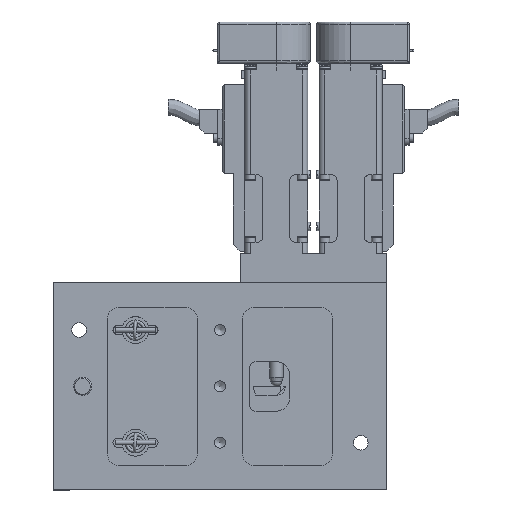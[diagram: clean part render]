
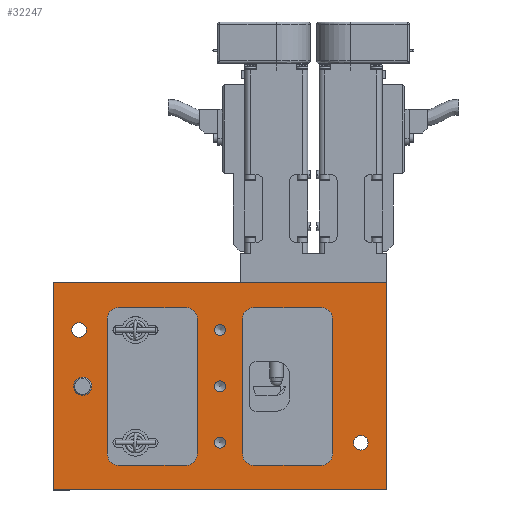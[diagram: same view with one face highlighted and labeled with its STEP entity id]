
A CAD part, front view. The second image highlights one B-rep face of the part: STEP entity #32247.
In plain terms, the highlighted planar face has unit normal (0, -1, 0).
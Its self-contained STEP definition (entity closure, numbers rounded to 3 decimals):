
#1390=LINE($,#48065,#3950);
#1448=LINE($,#48292,#4008);
#1454=LINE($,#48313,#4014);
#1460=LINE($,#48329,#4020);
#1466=LINE($,#48350,#4026);
#1472=LINE($,#48369,#4032);
#1473=LINE($,#48371,#4033);
#1474=LINE($,#48373,#4034);
#1475=LINE($,#48375,#4035);
#1495=LINE($,#48424,#4055);
#1500=LINE($,#48432,#4060);
#1503=LINE($,#48437,#4063);
#3950=VECTOR($,#37915,148.);
#4008=VECTOR($,#38155,60.);
#4014=VECTOR($,#38175,60.);
#4020=VECTOR($,#38189,60.);
#4026=VECTOR($,#38209,60.);
#4032=VECTOR($,#38233,30.);
#4033=VECTOR($,#38236,30.);
#4034=VECTOR($,#38239,30.);
#4035=VECTOR($,#38242,30.);
#4055=VECTOR($,#38290,92.);
#4060=VECTOR($,#38297,92.);
#4063=VECTOR($,#38302,148.);
#6884=PLANE($,#34574);
#8081=FACE_BOUND($,#11072,.T.);
#8082=FACE_BOUND($,#11073,.T.);
#8083=FACE_BOUND($,#11074,.T.);
#8084=FACE_BOUND($,#11075,.T.);
#8085=FACE_BOUND($,#11076,.T.);
#8086=FACE_BOUND($,#11077,.T.);
#8087=FACE_BOUND($,#11078,.T.);
#8088=FACE_BOUND($,#11079,.T.);
#8089=FACE_BOUND($,#11080,.T.);
#11072=EDGE_LOOP($,(#23321));
#11073=EDGE_LOOP($,(#23322));
#11074=EDGE_LOOP($,(#23323));
#11075=EDGE_LOOP($,(#23324));
#11076=EDGE_LOOP($,(#23325));
#11077=EDGE_LOOP($,(#23326));
#11078=EDGE_LOOP($,(#23327,#23328,#23329,#23330,#23331,#23332,#23333,#23334));
#11079=EDGE_LOOP($,(#23335,#23336,#23337,#23338,#23339,#23340,#23341,#23342));
#11080=EDGE_LOOP($,(#23343,#23344,#23345,#23346));
#13513=CIRCLE($,#34440,4.);
#13522=CIRCLE($,#34455,2.459);
#13524=CIRCLE($,#34459,2.459);
#13526=CIRCLE($,#34463,2.459);
#13529=CIRCLE($,#34469,3.25);
#13532=CIRCLE($,#34475,3.25);
#13557=CIRCLE($,#34525,5.);
#13559=CIRCLE($,#34529,5.);
#13563=CIRCLE($,#34536,5.);
#13565=CIRCLE($,#34540,5.);
#13568=CIRCLE($,#34546,5.);
#13569=CIRCLE($,#34548,5.);
#13570=CIRCLE($,#34550,5.);
#13571=CIRCLE($,#34552,5.);
#14764=VERTEX_POINT($,#48062);
#14765=VERTEX_POINT($,#48064);
#14768=VERTEX_POINT($,#48073);
#14782=VERTEX_POINT($,#48111);
#14784=VERTEX_POINT($,#48117);
#14786=VERTEX_POINT($,#48123);
#14789=VERTEX_POINT($,#48132);
#14792=VERTEX_POINT($,#48141);
#14840=VERTEX_POINT($,#48282);
#14841=VERTEX_POINT($,#48284);
#14843=VERTEX_POINT($,#48290);
#14846=VERTEX_POINT($,#48297);
#14847=VERTEX_POINT($,#48299);
#14851=VERTEX_POINT($,#48312);
#14854=VERTEX_POINT($,#48319);
#14855=VERTEX_POINT($,#48321);
#14857=VERTEX_POINT($,#48327);
#14860=VERTEX_POINT($,#48334);
#14861=VERTEX_POINT($,#48336);
#14865=VERTEX_POINT($,#48349);
#14866=VERTEX_POINT($,#48353);
#14867=VERTEX_POINT($,#48357);
#14868=VERTEX_POINT($,#48361);
#14869=VERTEX_POINT($,#48365);
#14884=VERTEX_POINT($,#48423);
#14886=VERTEX_POINT($,#48431);
#18023=EDGE_CURVE($,#14764,#14765,#1390,.T.);
#18027=EDGE_CURVE($,#14768,#14768,#13513,.T.);
#18045=EDGE_CURVE($,#14782,#14782,#13522,.T.);
#18047=EDGE_CURVE($,#14784,#14784,#13524,.T.);
#18049=EDGE_CURVE($,#14786,#14786,#13526,.T.);
#18052=EDGE_CURVE($,#14789,#14789,#13529,.T.);
#18055=EDGE_CURVE($,#14792,#14792,#13532,.T.);
#18124=EDGE_CURVE($,#14840,#14841,#13557,.T.);
#18128=EDGE_CURVE($,#14840,#14843,#1448,.T.);
#18131=EDGE_CURVE($,#14846,#14847,#13559,.T.);
#18138=EDGE_CURVE($,#14851,#14847,#1454,.T.);
#18142=EDGE_CURVE($,#14854,#14855,#13563,.T.);
#18146=EDGE_CURVE($,#14854,#14857,#1460,.T.);
#18149=EDGE_CURVE($,#14860,#14861,#13565,.T.);
#18156=EDGE_CURVE($,#14865,#14861,#1466,.T.);
#18158=EDGE_CURVE($,#14865,#14866,#13568,.T.);
#18161=EDGE_CURVE($,#14867,#14857,#13569,.T.);
#18162=EDGE_CURVE($,#14851,#14868,#13570,.T.);
#18165=EDGE_CURVE($,#14869,#14843,#13571,.T.);
#18166=EDGE_CURVE($,#14846,#14841,#1472,.T.);
#18167=EDGE_CURVE($,#14869,#14868,#1473,.T.);
#18168=EDGE_CURVE($,#14860,#14855,#1474,.T.);
#18169=EDGE_CURVE($,#14867,#14866,#1475,.T.);
#18193=EDGE_CURVE($,#14765,#14884,#1495,.T.);
#18198=EDGE_CURVE($,#14886,#14764,#1500,.T.);
#18201=EDGE_CURVE($,#14884,#14886,#1503,.T.);
#23321=ORIENTED_EDGE($,*,*,#18045,.T.);
#23322=ORIENTED_EDGE($,*,*,#18047,.T.);
#23323=ORIENTED_EDGE($,*,*,#18049,.T.);
#23324=ORIENTED_EDGE($,*,*,#18052,.T.);
#23325=ORIENTED_EDGE($,*,*,#18055,.T.);
#23326=ORIENTED_EDGE($,*,*,#18027,.T.);
#23327=ORIENTED_EDGE($,*,*,#18128,.T.);
#23328=ORIENTED_EDGE($,*,*,#18165,.F.);
#23329=ORIENTED_EDGE($,*,*,#18167,.T.);
#23330=ORIENTED_EDGE($,*,*,#18162,.F.);
#23331=ORIENTED_EDGE($,*,*,#18138,.T.);
#23332=ORIENTED_EDGE($,*,*,#18131,.F.);
#23333=ORIENTED_EDGE($,*,*,#18166,.T.);
#23334=ORIENTED_EDGE($,*,*,#18124,.F.);
#23335=ORIENTED_EDGE($,*,*,#18146,.T.);
#23336=ORIENTED_EDGE($,*,*,#18161,.F.);
#23337=ORIENTED_EDGE($,*,*,#18169,.T.);
#23338=ORIENTED_EDGE($,*,*,#18158,.F.);
#23339=ORIENTED_EDGE($,*,*,#18156,.T.);
#23340=ORIENTED_EDGE($,*,*,#18149,.F.);
#23341=ORIENTED_EDGE($,*,*,#18168,.T.);
#23342=ORIENTED_EDGE($,*,*,#18142,.F.);
#23343=ORIENTED_EDGE($,*,*,#18201,.F.);
#23344=ORIENTED_EDGE($,*,*,#18193,.F.);
#23345=ORIENTED_EDGE($,*,*,#18023,.F.);
#23346=ORIENTED_EDGE($,*,*,#18198,.F.);
#32247=ADVANCED_FACE($,(#8081,#8082,#8083,#8084,#8085,#8086,#8087,#8088,
#8089),#6884,.F.);
#34440=AXIS2_PLACEMENT_3D($,#48074,#37925,#37926);
#34455=AXIS2_PLACEMENT_3D($,#48112,#37964,#37965);
#34459=AXIS2_PLACEMENT_3D($,#48118,#37972,#37973);
#34463=AXIS2_PLACEMENT_3D($,#48124,#37980,#37981);
#34469=AXIS2_PLACEMENT_3D($,#48133,#37992,#37993);
#34475=AXIS2_PLACEMENT_3D($,#48142,#38004,#38005);
#34525=AXIS2_PLACEMENT_3D($,#48285,#38148,#38149);
#34529=AXIS2_PLACEMENT_3D($,#48300,#38161,#38162);
#34536=AXIS2_PLACEMENT_3D($,#48322,#38182,#38183);
#34540=AXIS2_PLACEMENT_3D($,#48337,#38195,#38196);
#34546=AXIS2_PLACEMENT_3D($,#48354,#38213,#38214);
#34548=AXIS2_PLACEMENT_3D($,#48359,#38219,#38220);
#34550=AXIS2_PLACEMENT_3D($,#48362,#38223,#38224);
#34552=AXIS2_PLACEMENT_3D($,#48367,#38229,#38230);
#34574=AXIS2_PLACEMENT_3D($,#48440,#38306,#38307);
#37915=DIRECTION($,(1.,0.,0.));
#37925=DIRECTION('center_axis',(0.,1.,0.));
#37926=DIRECTION('ref_axis',(1.,0.,0.));
#37964=DIRECTION('center_axis',(0.,1.,0.));
#37965=DIRECTION('ref_axis',(1.,0.,0.));
#37972=DIRECTION('center_axis',(0.,1.,0.));
#37973=DIRECTION('ref_axis',(1.,0.,0.));
#37980=DIRECTION('center_axis',(0.,1.,0.));
#37981=DIRECTION('ref_axis',(1.,0.,0.));
#37992=DIRECTION('center_axis',(0.,1.,0.));
#37993=DIRECTION('ref_axis',(1.,0.,0.));
#38004=DIRECTION('center_axis',(0.,1.,0.));
#38005=DIRECTION('ref_axis',(1.,0.,0.));
#38148=DIRECTION('center_axis',(0.,-1.,0.));
#38149=DIRECTION('ref_axis',(-0.707,0.,-0.707));
#38155=DIRECTION($,(0.,0.,1.));
#38161=DIRECTION('center_axis',(0.,-1.,0.));
#38162=DIRECTION('ref_axis',(0.707,0.,-0.707));
#38175=DIRECTION($,(0.,0.,-1.));
#38182=DIRECTION('center_axis',(0.,-1.,0.));
#38183=DIRECTION('ref_axis',(-0.707,0.,-0.707));
#38189=DIRECTION($,(0.,0.,1.));
#38195=DIRECTION('center_axis',(0.,-1.,0.));
#38196=DIRECTION('ref_axis',(0.707,0.,-0.707));
#38209=DIRECTION($,(0.,0.,-1.));
#38213=DIRECTION('center_axis',(0.,-1.,0.));
#38214=DIRECTION('ref_axis',(0.707,0.,0.707));
#38219=DIRECTION('center_axis',(0.,-1.,0.));
#38220=DIRECTION('ref_axis',(-0.707,0.,0.707));
#38223=DIRECTION('center_axis',(0.,-1.,0.));
#38224=DIRECTION('ref_axis',(0.707,0.,0.707));
#38229=DIRECTION('center_axis',(0.,-1.,0.));
#38230=DIRECTION('ref_axis',(-0.707,0.,0.707));
#38233=DIRECTION($,(-1.,0.,0.));
#38236=DIRECTION($,(1.,0.,0.));
#38239=DIRECTION($,(-1.,0.,0.));
#38242=DIRECTION($,(1.,0.,0.));
#38290=DIRECTION($,(0.,0.,-1.));
#38297=DIRECTION($,(0.,0.,1.));
#38302=DIRECTION($,(-1.,0.,0.));
#38306=DIRECTION('center_axis',(0.,1.,0.));
#38307=DIRECTION('ref_axis',(0.,0.,1.));
#48062=CARTESIAN_POINT('',(0.,3.,95.));
#48064=CARTESIAN_POINT('',(148.,3.,95.));
#48065=CARTESIAN_POINT($,(0.,3.,95.));
#48073=CARTESIAN_POINT('',(9.,3.,49.));
#48074=CARTESIAN_POINT('Origin',(13.,3.,49.));
#48111=CARTESIAN_POINT('',(76.459,3.,49.));
#48112=CARTESIAN_POINT('Origin',(74.,3.,49.));
#48117=CARTESIAN_POINT('',(76.459,3.,74.));
#48118=CARTESIAN_POINT('Origin',(74.,3.,74.));
#48123=CARTESIAN_POINT('',(76.459,3.,24.));
#48124=CARTESIAN_POINT('Origin',(74.,3.,24.));
#48132=CARTESIAN_POINT('',(133.25,3.,24.));
#48133=CARTESIAN_POINT('Origin',(136.5,3.,24.));
#48141=CARTESIAN_POINT('',(8.25,3.,74.));
#48142=CARTESIAN_POINT('Origin',(11.5,3.,74.));
#48282=CARTESIAN_POINT('',(24.,3.,19.));
#48284=CARTESIAN_POINT('',(29.,3.,14.));
#48285=CARTESIAN_POINT('Origin',(29.,3.,19.));
#48290=CARTESIAN_POINT('',(24.,3.,79.));
#48292=CARTESIAN_POINT($,(24.,3.,31.5));
#48297=CARTESIAN_POINT('',(59.,3.,14.));
#48299=CARTESIAN_POINT('',(64.,3.,19.));
#48300=CARTESIAN_POINT('Origin',(59.,3.,19.));
#48312=CARTESIAN_POINT('',(64.,3.,79.));
#48313=CARTESIAN_POINT($,(64.,3.,66.5));
#48319=CARTESIAN_POINT('',(84.,3.,19.));
#48321=CARTESIAN_POINT('',(89.,3.,14.));
#48322=CARTESIAN_POINT('Origin',(89.,3.,19.));
#48327=CARTESIAN_POINT('',(84.,3.,79.));
#48329=CARTESIAN_POINT($,(84.,3.,31.5));
#48334=CARTESIAN_POINT('',(119.,3.,14.));
#48336=CARTESIAN_POINT('',(124.,3.,19.));
#48337=CARTESIAN_POINT('Origin',(119.,3.,19.));
#48349=CARTESIAN_POINT('',(124.,3.,79.));
#48350=CARTESIAN_POINT($,(124.,3.,66.5));
#48353=CARTESIAN_POINT('',(119.,3.,84.));
#48354=CARTESIAN_POINT('Origin',(119.,3.,79.));
#48357=CARTESIAN_POINT('',(89.,3.,84.));
#48359=CARTESIAN_POINT('Origin',(89.,3.,79.));
#48361=CARTESIAN_POINT('',(59.,3.,84.));
#48362=CARTESIAN_POINT('Origin',(59.,3.,79.));
#48365=CARTESIAN_POINT('',(29.,3.,84.));
#48367=CARTESIAN_POINT('Origin',(29.,3.,79.));
#48369=CARTESIAN_POINT($,(69.,3.,14.));
#48371=CARTESIAN_POINT($,(49.,3.,84.));
#48373=CARTESIAN_POINT($,(99.,3.,14.));
#48375=CARTESIAN_POINT($,(79.,3.,84.));
#48423=CARTESIAN_POINT('',(148.,3.,3.));
#48424=CARTESIAN_POINT($,(148.,3.,95.));
#48431=CARTESIAN_POINT('',(0.,3.,3.));
#48432=CARTESIAN_POINT($,(0.,3.,3.));
#48437=CARTESIAN_POINT($,(148.,3.,3.));
#48440=CARTESIAN_POINT('Origin',(74.,3.,49.));
